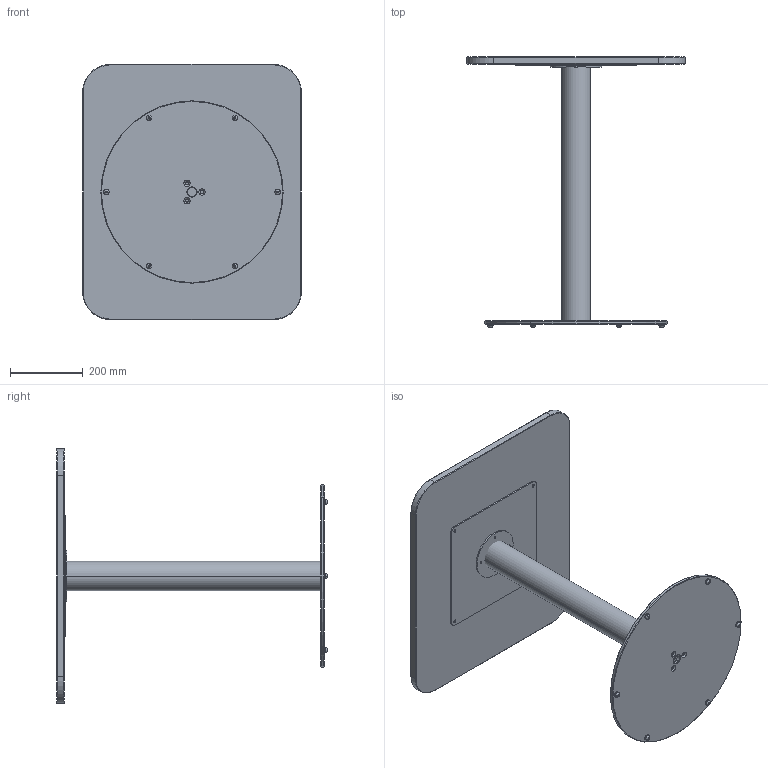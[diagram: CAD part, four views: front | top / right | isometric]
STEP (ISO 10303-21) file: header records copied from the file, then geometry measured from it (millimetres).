
FILE_DESCRIPTION (( 'STEP AP214' ), '1' );
FILE_NAME ('Missing Bistro Table, 60x70 Assembly.STEP', '2025-01-22T14:42:56', ( '' ), ( '' ), 'SwSTEP 2.0', 'SolidWorks 2024', '' );
FILE_SCHEMA (( 'AUTOMOTIVE_DESIGN' ));
Length unit declared in the file: millimetre
Products named in the file (5): Missing Bistro Table, Small Support plate; Missing Bistro Table, Small column Ø80; 60x70 Tabletop; Missing Bistro Table, 60x70 Assembly; Missing Bistro Table, Small Base
Assembly tree (4 placements, depth 2):
  Missing Bistro Table, 60x70 Assembly
    Missing Bistro Table, Small Base
    Missing Bistro Table, Small column Ø80
    Missing Bistro Table, Small Support plate
    60x70 Tabletop
Bounding box: 600 x 742 x 700 mm (x, y, z)
Volume: 11243187.9 mm3; surface area: 1875294.4 mm2
Topology: 12 solids, 12 shells, 176 faces, 386 edges, 238 vertices
Faces by surface type: cylinder 82, plane 44, cone 38, torus 12
Entity records: 5190 total; most frequent: DIRECTION 978, CARTESIAN_POINT 807, ORIENTED_EDGE 772, AXIS2_PLACEMENT_3D 409, EDGE_CURVE 386, VERTEX_POINT 238, EDGE_LOOP 226, CIRCLE 226
